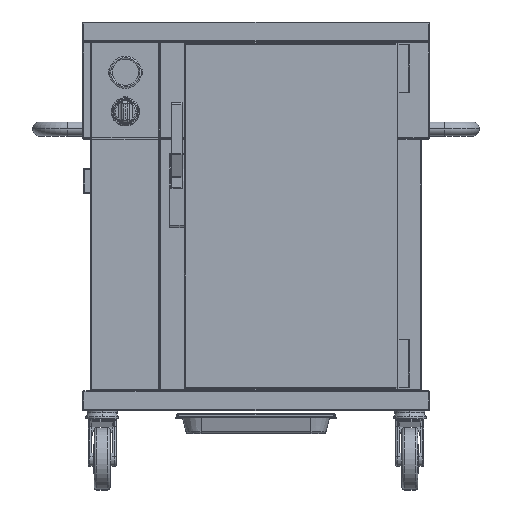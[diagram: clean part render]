
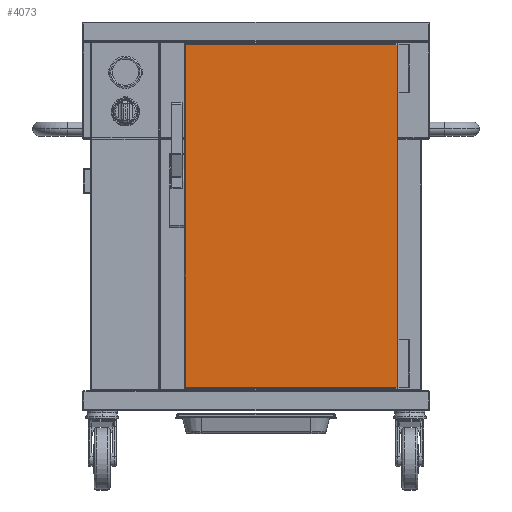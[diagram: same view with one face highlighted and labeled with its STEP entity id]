
A CAD part, top view. The second image highlights one B-rep face of the part: STEP entity #4073.
In plain terms, the highlighted planar face has unit normal (0, 0, 1).
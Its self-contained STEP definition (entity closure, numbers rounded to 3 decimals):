
#2292=DIRECTION('',(0.,-1.,0.));
#2293=VECTOR('',#2292,692.);
#2294=CARTESIAN_POINT('',(-143.,719.,324.5));
#2295=LINE('',#2294,#2293);
#2296=DIRECTION('',(-1.,0.,0.));
#2297=VECTOR('',#2296,428.);
#2298=CARTESIAN_POINT('',(285.,719.,324.5));
#2299=LINE('',#2298,#2297);
#2300=DIRECTION('',(0.,1.,0.));
#2301=VECTOR('',#2300,692.);
#2302=CARTESIAN_POINT('',(285.,27.,324.5));
#2303=LINE('',#2302,#2301);
#2304=DIRECTION('',(1.,0.,0.));
#2305=VECTOR('',#2304,428.);
#2306=CARTESIAN_POINT('',(-143.,27.,324.5));
#2307=LINE('',#2306,#2305);
#3540=CARTESIAN_POINT('',(-143.,719.,324.5));
#3541=CARTESIAN_POINT('',(-143.,27.,324.5));
#3542=VERTEX_POINT('',#3540);
#3543=VERTEX_POINT('',#3541);
#3548=CARTESIAN_POINT('',(285.,27.,324.5));
#3549=VERTEX_POINT('',#3548);
#3578=CARTESIAN_POINT('',(285.,719.,324.5));
#3579=VERTEX_POINT('',#3578);
#4061=CARTESIAN_POINT('',(0.,20.2,324.5));
#4062=DIRECTION('',(0.,0.,1.));
#4063=DIRECTION('',(1.,0.,0.));
#4064=AXIS2_PLACEMENT_3D('',#4061,#4062,#4063);
#4065=PLANE('',#4064);
#4066=ORIENTED_EDGE('',*,*,#4002,.F.);
#4067=ORIENTED_EDGE('',*,*,#4029,.F.);
#4068=ORIENTED_EDGE('',*,*,#4052,.F.);
#4070=ORIENTED_EDGE('',*,*,#4069,.F.);
#4071=EDGE_LOOP('',(#4066,#4067,#4068,#4070));
#4072=FACE_OUTER_BOUND('',#4071,.F.);
#4002=EDGE_CURVE('',#3542,#3543,#2295,.T.);
#4029=EDGE_CURVE('',#3579,#3542,#2299,.T.);
#4052=EDGE_CURVE('',#3549,#3579,#2303,.T.);
#4069=EDGE_CURVE('',#3543,#3549,#2307,.T.);
#4073=ADVANCED_FACE('',(#4072),#4065,.T.);
